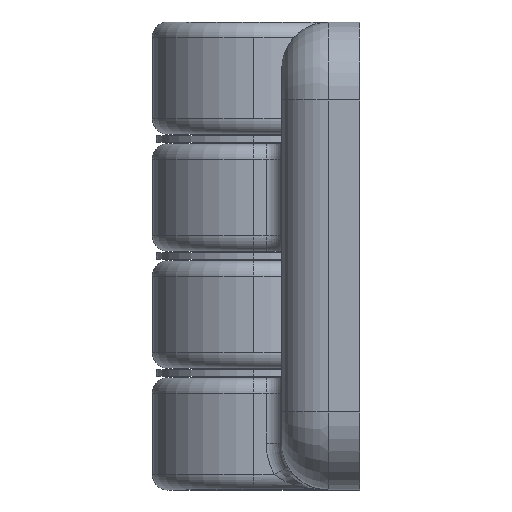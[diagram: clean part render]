
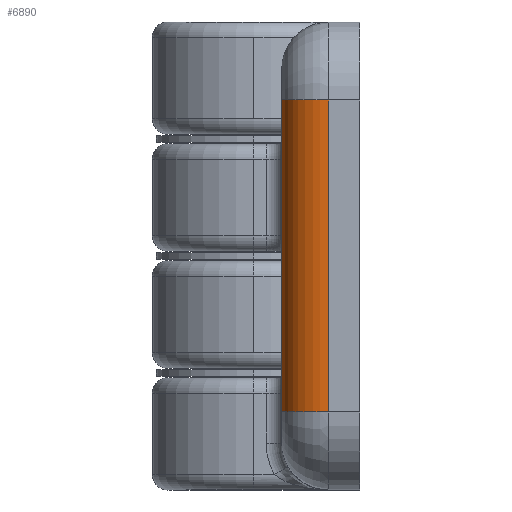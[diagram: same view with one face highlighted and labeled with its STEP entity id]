
A CAD part, left-side view. The second image highlights one B-rep face of the part: STEP entity #6890.
In plain terms, the highlighted cylindrical face has radius 3 mm (diameter 6 mm), a partial arc.
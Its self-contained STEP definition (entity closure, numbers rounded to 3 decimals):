
#1610 = LINE ( 'NONE', #2264, #1612 ) ;
#1612 = VECTOR ( 'NONE', #2265, 1000. ) ;
#1679 = LINE ( 'NONE', #2378, #1682 ) ;
#1682 = VECTOR ( 'NONE', #2379, 1000. ) ;
#2264 = CARTESIAN_POINT ( 'NONE',  ( 27., -1.8, 30. ) ) ;
#2265 = DIRECTION ( 'NONE',  ( 0., 0., -1. ) ) ;
#2378 = CARTESIAN_POINT ( 'NONE',  ( 30., -4.8, 30. ) ) ;
#2379 = DIRECTION ( 'NONE',  ( 0., 0., 1. ) ) ;
#5068 = AXIS2_PLACEMENT_3D ( 'NONE', #6132, #6133, #6134 ) ;
#5069 = AXIS2_PLACEMENT_3D ( 'NONE', #6135, #6136, #6137 ) ;
#5474 = CIRCLE ( 'NONE', #5068, 3. ) ;
#5475 = CIRCLE ( 'NONE', #5069, 3. ) ;
#6132 = CARTESIAN_POINT ( 'NONE',  ( 27., -4.8, 5. ) ) ;
#6133 = DIRECTION ( 'NONE',  ( 0., 0., 1. ) ) ;
#6134 = DIRECTION ( 'NONE',  ( 1., 0., 0. ) ) ;
#6135 = CARTESIAN_POINT ( 'NONE',  ( 27., -4.8, 25. ) ) ;
#6136 = DIRECTION ( 'NONE',  ( 0., 0., 1. ) ) ;
#6137 = DIRECTION ( 'NONE',  ( 1., 0., 0. ) ) ;
#6524 = VERTEX_POINT ( 'NONE', #11870 ) ;
#6528 = VERTEX_POINT ( 'NONE', #11874 ) ;
#6556 = VERTEX_POINT ( 'NONE', #11902 ) ;
#6560 = VERTEX_POINT ( 'NONE', #11906 ) ;
#6890 = ADVANCED_FACE ( 'NONE', ( #11659 ), #11661, .T. ) ;
#8494 = ORIENTED_EDGE ( 'NONE', *, *, #11235, .T. ) ;
#8495 = ORIENTED_EDGE ( 'NONE', *, *, #9428, .F. ) ;
#8496 = ORIENTED_EDGE ( 'NONE', *, *, #11236, .F. ) ;
#8497 = ORIENTED_EDGE ( 'NONE', *, *, #9472, .F. ) ;
#9428 = EDGE_CURVE ( 'NONE', #6528, #6524, #1610, .T. ) ;
#9472 = EDGE_CURVE ( 'NONE', #6556, #6560, #1679, .T. ) ;
#9878 = EDGE_LOOP ( 'NONE', ( #8494, #8495, #8496, #8497 ) ) ;
#11235 = EDGE_CURVE ( 'NONE', #6556, #6524, #5474, .T. ) ;
#11236 = EDGE_CURVE ( 'NONE', #6560, #6528, #5475, .T. ) ;
#11659 = FACE_OUTER_BOUND ( 'NONE', #9878, .T. ) ;
#11661 = CYLINDRICAL_SURFACE ( 'NONE', #12236, 3. ) ;
#11870 = CARTESIAN_POINT ( 'NONE',  ( 27., -1.8, 5. ) ) ;
#11874 = CARTESIAN_POINT ( 'NONE',  ( 27., -1.8, 25. ) ) ;
#11902 = CARTESIAN_POINT ( 'NONE',  ( 30., -4.8, 5. ) ) ;
#11906 = CARTESIAN_POINT ( 'NONE',  ( 30., -4.8, 25. ) ) ;
#12236 = AXIS2_PLACEMENT_3D ( 'NONE', #12741, #12742, #12739 ) ;
#12739 = DIRECTION ( 'NONE',  ( -1., 0., 0. ) ) ;
#12741 = CARTESIAN_POINT ( 'NONE',  ( 27., -4.8, 30. ) ) ;
#12742 = DIRECTION ( 'NONE',  ( 0., 0., -1. ) ) ;
